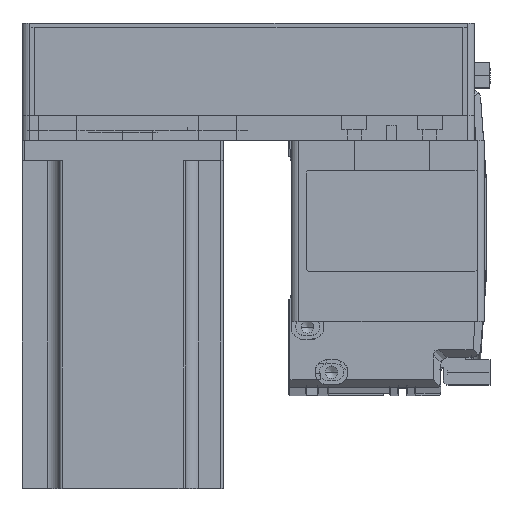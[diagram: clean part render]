
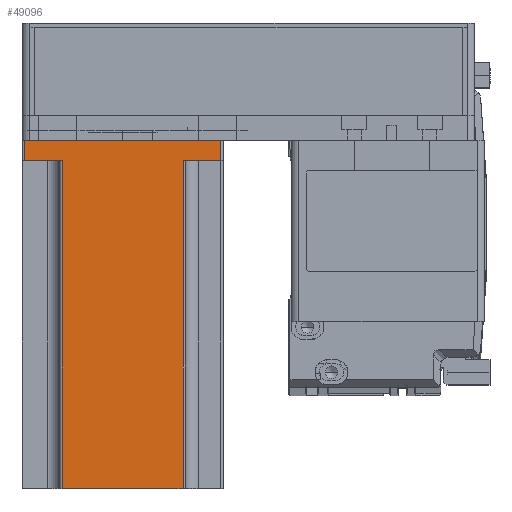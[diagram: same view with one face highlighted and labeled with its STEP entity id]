
A CAD part, top view. The second image highlights one B-rep face of the part: STEP entity #49096.
In plain terms, the highlighted planar face has unit normal (0, 0, 1) as drawn and (0, 1, 0) by its records, which use the part's own axes.
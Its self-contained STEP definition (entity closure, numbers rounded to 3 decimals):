
#242 = VECTOR ( 'NONE', #4363, 1000. ) ;
#1149 = VERTEX_POINT ( 'NONE', #55303 ) ;
#1430 = ORIENTED_EDGE ( 'NONE', *, *, #38010, .F. ) ;
#2193 = VECTOR ( 'NONE', #32712, 1000. ) ;
#2495 = LINE ( 'NONE', #55672, #13333 ) ;
#3028 = ORIENTED_EDGE ( 'NONE', *, *, #10998, .T. ) ;
#3051 = VECTOR ( 'NONE', #25580, 1000. ) ;
#3974 = ORIENTED_EDGE ( 'NONE', *, *, #58306, .F. ) ;
#4363 = DIRECTION ( 'NONE',  ( 0., 0., -1. ) ) ;
#4640 = VERTEX_POINT ( 'NONE', #27740 ) ;
#5233 = CARTESIAN_POINT ( 'NONE',  ( -25., 40., 8. ) ) ;
#5501 = DIRECTION ( 'NONE',  ( -1., 0., 0. ) ) ;
#5539 = EDGE_CURVE ( 'NONE', #32844, #8952, #40397, .T. ) ;
#8952 = VERTEX_POINT ( 'NONE', #55859 ) ;
#9318 = EDGE_CURVE ( 'NONE', #8952, #58232, #2495, .T. ) ;
#10998 = EDGE_CURVE ( 'NONE', #4640, #32844, #27540, .T. ) ;
#11483 = ORIENTED_EDGE ( 'NONE', *, *, #49932, .T. ) ;
#13307 = EDGE_CURVE ( 'NONE', #58232, #1149, #14503, .T. ) ;
#13333 = VECTOR ( 'NONE', #23410, 1000. ) ;
#13370 = CARTESIAN_POINT ( 'NONE',  ( -24., 40., 138.3 ) ) ;
#14503 = LINE ( 'NONE', #5233, #2193 ) ;
#15361 = ORIENTED_EDGE ( 'NONE', *, *, #20961, .T. ) ;
#16787 = LINE ( 'NONE', #40800, #39795 ) ;
#17081 = CARTESIAN_POINT ( 'NONE',  ( 40., 40., 138.3 ) ) ;
#17777 = DIRECTION ( 'NONE',  ( -1., 0., 0. ) ) ;
#18543 = ORIENTED_EDGE ( 'NONE', *, *, #5539, .T. ) ;
#20961 = EDGE_CURVE ( 'NONE', #37230, #30113, #35530, .T. ) ;
#20969 = CARTESIAN_POINT ( 'NONE',  ( 39., 40., 138.3 ) ) ;
#21665 = DIRECTION ( 'NONE',  ( 1., 0., 0. ) ) ;
#23313 = DIRECTION ( 'NONE',  ( 0., 0., 1. ) ) ;
#23410 = DIRECTION ( 'NONE',  ( 0., 0., 1. ) ) ;
#24330 = ORIENTED_EDGE ( 'NONE', *, *, #13307, .T. ) ;
#24813 = ORIENTED_EDGE ( 'NONE', *, *, #9318, .T. ) ;
#24927 = AXIS2_PLACEMENT_3D ( 'NONE', #17081, #49239, #21665 ) ;
#25580 = DIRECTION ( 'NONE',  ( 0., 0., -1. ) ) ;
#27540 = LINE ( 'NONE', #20969, #3051 ) ;
#27725 = LINE ( 'NONE', #55565, #39978 ) ;
#27740 = CARTESIAN_POINT ( 'NONE',  ( 39., 40., 8. ) ) ;
#28397 = CARTESIAN_POINT ( 'NONE',  ( 40., 40., 0. ) ) ;
#30113 = VERTEX_POINT ( 'NONE', #53926 ) ;
#32712 = DIRECTION ( 'NONE',  ( 1., 0., 0. ) ) ;
#32844 = VERTEX_POINT ( 'NONE', #46718 ) ;
#33121 = LINE ( 'NONE', #49951, #45463 ) ;
#33491 = FACE_OUTER_BOUND ( 'NONE', #46565, .T. ) ;
#34494 = CARTESIAN_POINT ( 'NONE',  ( -39., 40., 8. ) ) ;
#35530 = LINE ( 'NONE', #36470, #242 ) ;
#36470 = CARTESIAN_POINT ( 'NONE',  ( 24., 40., 138.3 ) ) ;
#37230 = VERTEX_POINT ( 'NONE', #38123 ) ;
#38010 = EDGE_CURVE ( 'NONE', #4640, #30113, #33121, .T. ) ;
#38123 = CARTESIAN_POINT ( 'NONE',  ( 24., 40., 138.3 ) ) ;
#39795 = VECTOR ( 'NONE', #45476, 1000. ) ;
#39978 = VECTOR ( 'NONE', #23313, 1000. ) ;
#40397 = LINE ( 'NONE', #28397, #52649 ) ;
#40800 = CARTESIAN_POINT ( 'NONE',  ( 40., 40., 138.3 ) ) ;
#45463 = VECTOR ( 'NONE', #17777, 1000. ) ;
#45476 = DIRECTION ( 'NONE',  ( -1., 0., 0. ) ) ;
#46565 = EDGE_LOOP ( 'NONE', ( #24330, #11483, #3974, #15361, #1430, #3028, #18543, #24813 ) ) ;
#46718 = CARTESIAN_POINT ( 'NONE',  ( 39., 40., 0. ) ) ;
#47955 = VERTEX_POINT ( 'NONE', #13370 ) ;
#49096 = ADVANCED_FACE ( 'NONE', ( #33491 ), #53702, .F. ) ;
#49239 = DIRECTION ( 'NONE',  ( 0., -1., 0. ) ) ;
#49932 = EDGE_CURVE ( 'NONE', #1149, #47955, #27725, .T. ) ;
#49951 = CARTESIAN_POINT ( 'NONE',  ( 25., 40., 8. ) ) ;
#52649 = VECTOR ( 'NONE', #5501, 1000. ) ;
#53702 = PLANE ( 'NONE',  #24927 ) ;
#53926 = CARTESIAN_POINT ( 'NONE',  ( 24., 40., 8. ) ) ;
#55303 = CARTESIAN_POINT ( 'NONE',  ( -24., 40., 8. ) ) ;
#55565 = CARTESIAN_POINT ( 'NONE',  ( -24., 40., 138.3 ) ) ;
#55672 = CARTESIAN_POINT ( 'NONE',  ( -39., 40., 138.3 ) ) ;
#55859 = CARTESIAN_POINT ( 'NONE',  ( -39., 40., 0. ) ) ;
#58232 = VERTEX_POINT ( 'NONE', #34494 ) ;
#58306 = EDGE_CURVE ( 'NONE', #37230, #47955, #16787, .T. ) ;
